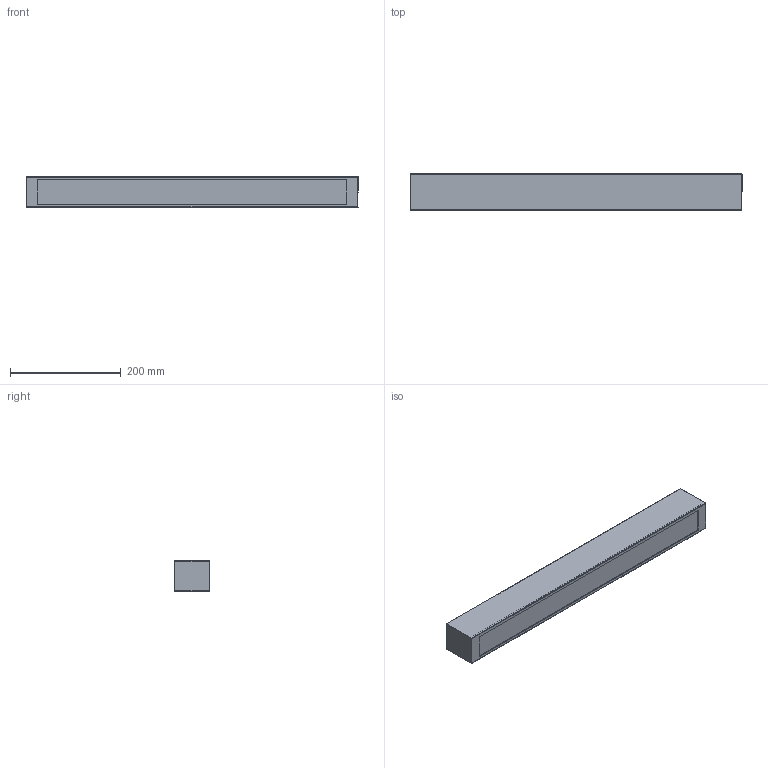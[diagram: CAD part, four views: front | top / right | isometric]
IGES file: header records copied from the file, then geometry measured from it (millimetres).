
Start section: SolidWorks IGES file using analytic representation for surfaces
Global section: file name: C:\Users\ppp\Desktop\Nowodvorski\Modele 3D_lampy\Straight\3Ds\Straight_oprawa_60cm_23.07.IGS; native system: SolidWorks 2012; preprocessor: SolidWorks 2012; author: ppp; date: 150723.150241; units: millimetre
Bounding box: 600 x 65 x 56 mm (x, y, z)
Surface area: 316461.2 mm2 (no closed solid volume)
Topology: 0 solids, 0 shells, 62 faces, 624 edges, 620 vertices
Faces by surface type: bspline 40, revolution 22
